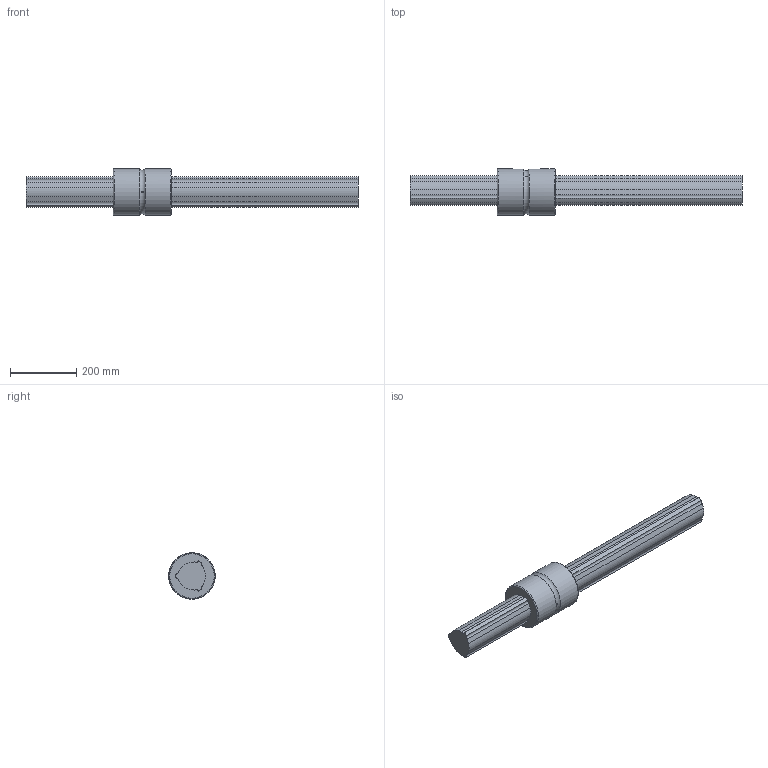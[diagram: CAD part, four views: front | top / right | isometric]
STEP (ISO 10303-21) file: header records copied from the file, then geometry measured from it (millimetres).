
FILE_DESCRIPTION(/* description */ ('STEP AP214'),/* implementation_level */ '2;1');
FILE_NAME(/* name */ 'LBST100+1000L(175262.50)',/* time_stamp */ '2024-09-04T12:57:30+02:00',/* author */ ('License CC BY-ND 4.0'),/* organization */ ('CADENAS'),/* preprocessor_version */ 'ST-DEVELOPER v19.3',/* originating_system */ 'PARTsolutions',/* authorisation */ ' ');
FILE_SCHEMA (('AUTOMOTIVE_DESIGN {1 0 10303 214 3 1 1}'));
Length unit declared in the file: millimetre
Products named in the file (3): LBST100+1000L(175262.50); LBST10011000 Spline Shaft; LBST100 Nut
Assembly tree (2 placements, depth 2):
  LBST100+1000L(175262.50)
    LBST10011000 Spline Shaft
    LBST100 Nut
Bounding box: 1000 x 140 x 140 mm (x, y, z)
Volume: 7345077.6 mm3; surface area: 453331 mm2
Topology: 3 solids, 3 shells, 57 faces, 148 edges, 99 vertices
Faces by surface type: cylinder 31, plane 22, torus 4
Full cylindrical faces by diameter (mm): 5 x3, 140 x2
Entity records: 1810 total; most frequent: CARTESIAN_POINT 355, DIRECTION 306, ORIENTED_EDGE 272, EDGE_CURVE 136, AXIS2_PLACEMENT_3D 118, VERTEX_POINT 94, LINE 70, VECTOR 70
